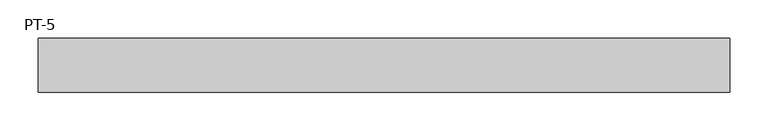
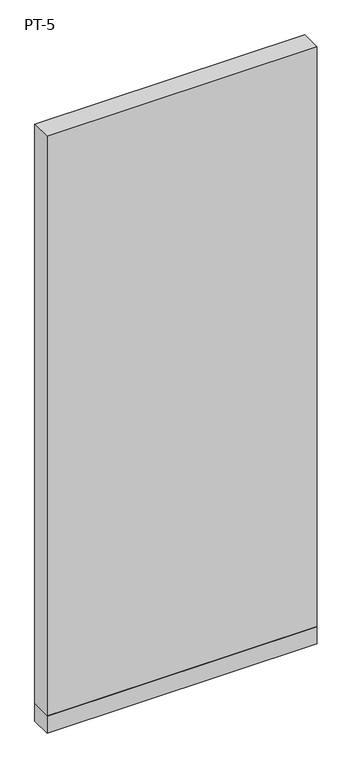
"""IFC4 building model written with IfcOpenShell, lengths in millimetres: plate geometry, 営_パーティションパネル_下部 : PT-5."""

from ifc_helpers import new_model, si_unit, frame, origin, origin_with_axes, place, context, project, spatial, polyline, outline, extrude, source, transform, mapped, element, save


def pt_5_33d2815e(model_context):
    return source(origin(), model_context, "Body", "SweptSolid", [
        extrude(outline(polyline([(-450.0, -35.0), (-450.0, 35.0), (450.0, 35.0), (450.0, -35.0), (-450.0, -35.0)])), origin_with_axes(), (0.0, 0.0, 1.0), 60.0),
        extrude(outline(polyline([(-450.0, -35.0), (-450.0, 35.0), (450.0, 35.0), (450.0, -35.0), (-450.0, -35.0)])), frame((0.0, 0.0, 60.0), z_axis=(0.0, 0.0, 1.0), x_axis=(1.0, 0.0, 0.0)), (0.0, 0.0, 1.0), 2040.0),
    ])


if __name__ == "__main__":
    model = new_model("IFC4")
    model_context = context("Model", 3, world=origin())
    ifc_project = project(units=[si_unit("LENGTHUNIT", "METRE", prefix="MILLI")], contexts=[model_context])
    site = spatial("IfcSite", under=ifc_project)
    building = spatial("IfcBuilding", under=site)
    placement = place(None, origin())
    pt_5_shape = pt_5_33d2815e(model_context)
    element("IfcPlate", 1, ObjectType="営_パーティションパネル_下部 : PT-5", at=placement, inside=building, context=model_context, shape_type="MappedRepresentation", body=[
        mapped(pt_5_shape, transform((0.0, 0.0, 0.0), x_axis=(1.0, 0.0, 0.0), y_axis=(0.0, 1.0, 0.0), z_axis=(0.0, 0.0, 1.0))),
    ])
    save(model, "model.ifc")
